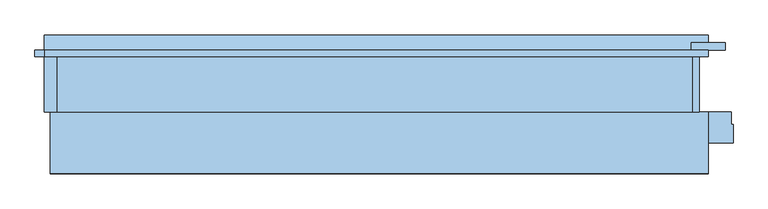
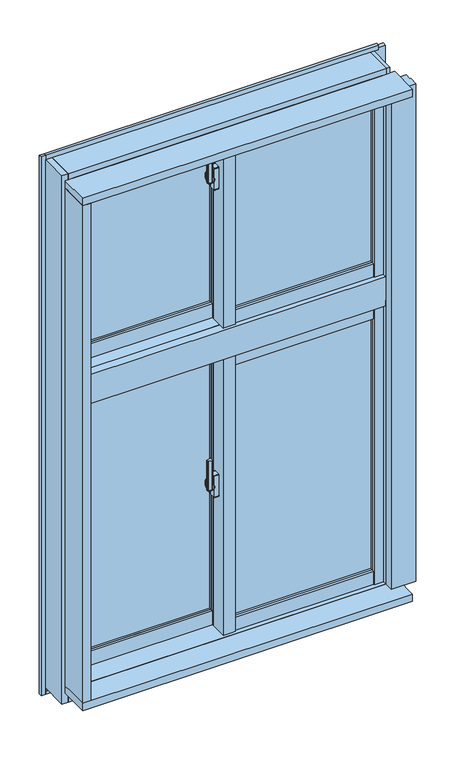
"""IFC4 building model written with IfcOpenShell, lengths in millimetres: window geometry, FNSⅡ100R_個別防火_ALC枠_段窓 : 引違/引違."""

import ifcopenshell
import ifcopenshell.guid

model = None  # the IFC model being written
_history = None  # IfcOwnerHistory: only IFC2X3 demands one
_inside = {}  # id of a spatial element -> (the spatial element, [elements in it])
_under = {}  # id of a project, library or spatial element -> (it, [spatial elements below it])
_declared = {}  # id of a project -> (the project, [libraries it declares])
_typed = {}  # id of a type object -> (the type object, [elements of that type])
_made_of = {}  # id of a material, layer set ... -> (it, [elements and type objects made of it])


def new_model(schema):
    """Start an empty IFC model of exactly this schema.

    Asked for "IFC4X3", IfcOpenShell would pick the latest addendum, in which some entities
    have other attributes; the version numbers below select the first issue.
    IFC2X3 requires an IfcOwnerHistory on every rooted entity: one is made here for all.
    """
    global model, _history
    if schema == "IFC4X3":
        model = ifcopenshell.file(schema_version=(4, 3, 0, 0))
    else:
        model = ifcopenshell.file(schema=schema)
    _inside.clear()
    _under.clear()
    _declared.clear()
    _typed.clear()
    _made_of.clear()
    _history = None
    if model.schema == "IFC2X3":
        org = make("IfcOrganization", Name="unknown")
        user = make(
            "IfcPersonAndOrganization",
            ThePerson=make("IfcPerson", FamilyName="unknown"),
            TheOrganization=org,
        )
        app = make(
            "IfcApplication",
            ApplicationDeveloper=org,
            Version="unknown",
            ApplicationFullName="unknown",
            ApplicationIdentifier="unknown",
        )
        _history = make(
            "IfcOwnerHistory",
            OwningUser=user,
            OwningApplication=app,
            ChangeAction="ADDED",
            CreationDate=0,
        )
    return model


def make(cls, **values):
    """One entity of the class cls with the attributes given. An attribute that is None is left unset."""
    return model.create_entity(
        cls, **{name: value for name, value in values.items() if value is not None}
    )


def rooted(cls, **values):
    """An entity with a GlobalId (a new one), such as an element, a storey or a relation."""
    return make(cls, GlobalId=ifcopenshell.guid.new(), OwnerHistory=_history, **values)


def si_unit(unit_type, name, prefix=None):
    """IfcSIUnit, for example si_unit("LENGTHUNIT", "METRE", prefix="MILLI")."""
    return make("IfcSIUnit", UnitType=unit_type, Prefix=prefix, Name=name)


def assignment(units):
    """IfcUnitAssignment: the units of a project."""
    return None if units is None else make("IfcUnitAssignment", Units=units)


def point(xyz):
    """IfcCartesianPoint."""
    return None if xyz is None else make("IfcCartesianPoint", Coordinates=xyz)


def direction(xyz):
    """IfcDirection."""
    return None if xyz is None else make("IfcDirection", DirectionRatios=xyz)


def frame(location, z_axis=None, x_axis=None):
    """IfcAxis2Placement3D, a coordinate frame: its origin and axes. An axis left out is left unset."""
    return make(
        "IfcAxis2Placement3D",
        Location=point(location),
        Axis=direction(z_axis),
        RefDirection=direction(x_axis),
    )


def frame_2d(location, x_axis=None):
    """IfcAxis2Placement2D, a coordinate frame in the plane: its origin and x axis."""
    return make(
        "IfcAxis2Placement2D", Location=point(location), RefDirection=direction(x_axis)
    )


def origin():
    """The frame at (0, 0, 0) with its axes left unset."""
    return frame((0.0, 0.0, 0.0))


def place(relative_to, where):
    """IfcLocalPlacement: puts the frame where relative to a parent placement (None: the world)."""
    return make(
        "IfcLocalPlacement", PlacementRelTo=relative_to, RelativePlacement=where
    )


def context(
    kind, dimensions, precision=None, world=None, true_north=None, identifier=None
):
    """IfcGeometricRepresentationContext, for example the 3D "Model" context."""
    return make(
        "IfcGeometricRepresentationContext",
        ContextIdentifier=identifier,
        ContextType=kind,
        CoordinateSpaceDimension=dimensions,
        Precision=precision,
        WorldCoordinateSystem=world,
        TrueNorth=true_north,
    )


def project(units=None, contexts=None):
    """IfcProject with its units and contexts."""
    return rooted(
        "IfcProject",
        Name="project",
        RepresentationContexts=contexts,
        UnitsInContext=assignment(units),
    )


def spatial(cls, under=None, at=None, **own):
    """A site, building, storey or space (cls), placed at a placement, below another one or the project."""
    s = rooted(cls, ObjectPlacement=at, **own)
    if under is not None:
        _under.setdefault(under.id(), (under, []))[1].append(s)
    return s


def polyline(points):
    """IfcPolyline through the points."""
    return make("IfcPolyline", Points=[point(p) for p in points])


def circle_curve(where, radius):
    """IfcCircle in the frame where."""
    return make("IfcCircle", Position=where, Radius=radius)


def trimmed(basis, trim1, trim2, sense, master):
    """IfcTrimmedCurve: the piece of a basis curve between two trims."""
    return make(
        "IfcTrimmedCurve",
        BasisCurve=basis,
        Trim1=trim1,
        Trim2=trim2,
        SenseAgreement=sense,
        MasterRepresentation=master,
    )


def segment(curve, same_sense, transition):
    """IfcCompositeCurveSegment."""
    return make(
        "IfcCompositeCurveSegment",
        Transition=transition,
        SameSense=same_sense,
        ParentCurve=curve,
    )


def composite_curve(segments, self_intersect=None):
    """IfcCompositeCurve: segments joined end to end."""
    return make("IfcCompositeCurve", Segments=segments, SelfIntersect=self_intersect)


def outline(outer, holes=None, kind="AREA"):
    """IfcArbitraryClosedProfileDef: a profile drawn as a closed curve; with holes, ...WithVoids."""
    if holes is None:
        return make("IfcArbitraryClosedProfileDef", ProfileType=kind, OuterCurve=outer)
    return make(
        "IfcArbitraryProfileDefWithVoids",
        ProfileType=kind,
        OuterCurve=outer,
        InnerCurves=holes,
    )


def extrude(swept, where, along, depth):
    """IfcExtrudedAreaSolid: the profile swept, set in the frame where, extruded along a direction by depth."""
    return make(
        "IfcExtrudedAreaSolid",
        SweptArea=swept,
        Position=where,
        ExtrudedDirection=direction(along),
        Depth=depth,
    )


def faces_of(points, faces, orient=None, outer=None):
    """IfcFace entities. A face is a list of loops; a loop is a list of indices into points, from 0.

    orient and outer hold one flag for each loop. By default every Orientation is true, the
    first loop of a face is its IfcFaceOuterBound and the others are IfcFaceBound.
    """
    made = []
    for i, loops in enumerate(faces):
        bounds = []
        for j, loop in enumerate(loops):
            is_outer = j == 0 if outer is None else outer[i][j]
            bounds.append(
                make(
                    "IfcFaceOuterBound" if is_outer else "IfcFaceBound",
                    Bound=make("IfcPolyLoop", Polygon=[points[k] for k in loop]),
                    Orientation=True if orient is None else orient[i][j],
                )
            )
        made.append(make("IfcFace", Bounds=bounds))
    return made


def faceted_brep(points, faces, orient=None, outer=None, voids=None):
    """IfcFacetedBrep: a solid bounded by flat faces; with voids (closed shells), ...WithVoids."""
    shared = [point(p) for p in points]
    hull = make("IfcClosedShell", CfsFaces=faces_of(shared, faces, orient, outer))
    if voids is None:
        return make("IfcFacetedBrep", Outer=hull)
    return make(
        "IfcFacetedBrepWithVoids",
        Outer=hull,
        Voids=[
            make(cls, CfsFaces=faces_of(shared, fs, o, b)) for cls, fs, o, b in voids
        ],
    )


def shape(context_of_items, identifier, shape_type, items):
    """IfcShapeRepresentation: the items that make up one representation, for example the "Body"."""
    return make(
        "IfcShapeRepresentation",
        ContextOfItems=context_of_items,
        RepresentationIdentifier=identifier,
        RepresentationType=shape_type,
        Items=items,
    )


def source(mapping_origin, context_of_items, identifier, shape_type, items):
    """IfcRepresentationMap: a shape defined once, which mapped items show again and again."""
    return make(
        "IfcRepresentationMap",
        MappingOrigin=mapping_origin,
        MappedRepresentation=shape(context_of_items, identifier, shape_type, items),
    )


def transform(
    local_origin,
    x_axis=None,
    y_axis=None,
    z_axis=None,
    scale=None,
    scale2=None,
    scale3=None,
    uniform=True,
):
    """IfcCartesianTransformationOperator3D, or its non-uniform kind. x_axis, y_axis, z_axis: its Axis1, 2, 3."""
    if uniform:
        return make(
            "IfcCartesianTransformationOperator3D",
            Axis1=direction(x_axis),
            Axis2=direction(y_axis),
            LocalOrigin=point(local_origin),
            Scale=scale,
            Axis3=direction(z_axis),
        )
    return make(
        "IfcCartesianTransformationOperator3DnonUniform",
        Axis1=direction(x_axis),
        Axis2=direction(y_axis),
        LocalOrigin=point(local_origin),
        Scale=scale,
        Axis3=direction(z_axis),
        Scale2=scale2,
        Scale3=scale3,
    )


def mapped(mapping_source, mapping_target):
    """IfcMappedItem: shows the shape of a source again, moved by a transform."""
    return make(
        "IfcMappedItem", MappingSource=mapping_source, MappingTarget=mapping_target
    )


def made_of(thing, what):
    """Note that an element or type object is made of a material, layer set ...; save() writes the relation."""
    if what is not None:
        _made_of.setdefault(what.id(), (what, []))[1].append(thing)
    return thing


def element(
    cls,
    number,
    at=None,
    inside=None,
    cuts=None,
    type_object=None,
    material=None,
    context=None,
    identifier="Body",
    shape_type=None,
    held_by="IfcProductDefinitionShape",
    body=None,
    shapes=None,
    **own,
):
    """One element of the class cls, such as IfcWall. Its Tag is "e" and its number.

    at: its placement. inside: the storey or other place that contains it. cuts: it is an
    opening in that element (IfcRelVoidsElement). A single representation is given by context,
    identifier, shape_type and body (its items); several are given by shapes. held_by: the class
    of the entity that holds the representations. save() writes the other relations.
    """
    e = rooted(cls, Tag="e%d" % number, ObjectPlacement=at, **own)
    if body is not None:
        shapes = [shape(context, identifier, shape_type, body)]
    if shapes is not None:
        e.Representation = make(held_by, Representations=shapes)
    if inside is not None:
        _inside.setdefault(inside.id(), (inside, []))[1].append(e)
    if cuts is not None:
        rooted(
            "IfcRelVoidsElement", RelatingBuildingElement=cuts, RelatedOpeningElement=e
        )
    if type_object is not None:
        _typed.setdefault(type_object.id(), (type_object, []))[1].append(e)
    return made_of(e, material)


def aggregate(whole, parts):
    """IfcRelAggregates: a whole, such as a stair, and the parts it consists of."""
    return rooted("IfcRelAggregates", RelatingObject=whole, RelatedObjects=parts)


def save(model, path):
    """Write the relations noted so far, then the file.

    IfcRelAggregates (storeys below a building ...), IfcRelContainedInSpatialStructure (elements
    in a storey), IfcRelDefinesByType, IfcRelAssociatesMaterial and IfcRelDeclares: one each for
    every whole, place, type object, material and project.
    """
    for whole, parts in _under.values():
        aggregate(whole, parts)
    for where, things in _inside.values():
        rooted(
            "IfcRelContainedInSpatialStructure",
            RelatedElements=things,
            RelatingStructure=where,
        )
    for kind, things in _typed.values():
        rooted("IfcRelDefinesByType", RelatedObjects=things, RelatingType=kind)
    for what, things in _made_of.values():
        rooted("IfcRelAssociatesMaterial", RelatedObjects=things, RelatingMaterial=what)
    for by, libraries in _declared.values():
        rooted("IfcRelDeclares", RelatingContext=by, RelatedDefinitions=libraries)
    model.write(path)


def plane_surface(at):
    """IfcPlane: the flat surface through the origin of the frame at, square to its z axis."""
    return make("IfcPlane", Position=at)


def cylinder_surface(at, radius):
    """IfcCylindricalSurface: all points at the distance radius from the z axis of the frame at."""
    return make("IfcCylindricalSurface", Position=at, Radius=radius)


def revolved_surface(curve, axis_point, axis_direction):
    """IfcSurfaceOfRevolution: the curve turned about the line through axis_point along axis_direction."""
    return make(
        "IfcSurfaceOfRevolution",
        SweptCurve=make("IfcArbitraryOpenProfileDef", ProfileType="CURVE", Curve=curve),
        AxisPosition=make("IfcAxis1Placement", Location=point(axis_point), Axis=direction(axis_direction)),
    )


def advanced_brep(points, edges, surfaces, faces):
    """IfcAdvancedBrep: a solid bounded by faces that lie on surfaces and meet in shared edges.

    An edge is (start, end): straight between two places in points (the first is 0);
    or (start, end, curve); or (start, end, curve, False) where it runs against its curve.
    A face is (place in surfaces, loops), or (place, loops, False) where it looks against
    its surface's normal. A loop lists edges by number (the first is 1), with a minus sign
    where the edge is run from its end to its start. The first loop is the outer one.
    """
    corners = [point(p) for p in points]
    vertices = [make("IfcVertexPoint", VertexGeometry=c) for c in corners]
    made = []
    for start, end, *more in edges:
        made.append(
            make(
                "IfcEdgeCurve",
                EdgeStart=vertices[start],
                EdgeEnd=vertices[end],
                EdgeGeometry=more[0] if more else make("IfcPolyline", Points=[corners[start], corners[end]]),
                SameSense=more[1] if len(more) > 1 else True,
            )
        )
    hull = []
    for where, loops, *sense in faces:
        bounds = []
        for j, loop in enumerate(loops):
            ring = [make("IfcOrientedEdge", EdgeElement=made[abs(k) - 1], Orientation=k > 0) for k in loop]
            bounds.append(
                make(
                    "IfcFaceOuterBound" if j == 0 else "IfcFaceBound",
                    Bound=make("IfcEdgeLoop", EdgeList=ring),
                    Orientation=True,
                )
            )
        hull.append(make("IfcAdvancedFace", Bounds=bounds, FaceSurface=surfaces[where], SameSense=sense[0] if sense else True))
    return make("IfcAdvancedBrep", Outer=make("IfcClosedShell", CfsFaces=hull))


def window_97257845(model_context):
    return source(origin(), model_context, "Body", "SolidModel", [
        extrude(outline(composite_curve([segment(polyline([(-39.0, 14.6), (-39.0, 6.4)]), True, "CONTINUOUS"), segment(trimmed(circle_curve(frame_2d((-41.0, 6.4)), 2.0), [point((-39.0, 6.4))], [point((-41.3606557, 4.4327869))], False, "CARTESIAN"), True, "CONTINUOUS"), segment(polyline([(-41.3606557, 4.4327869), (-52.3606557, 6.4494536)]), True, "CONTINUOUS"), segment(trimmed(circle_curve(frame_2d((-52.0, 8.4166667)), 2.0), [point((-52.3606557, 6.4494536))], [point((-54.0, 8.4166667))], False, "CARTESIAN"), True, "CONTINUOUS"), segment(polyline([(-54.0, 8.4166667), (-54.0, 12.5833333)]), True, "CONTINUOUS"), segment(trimmed(circle_curve(frame_2d((-52.0, 12.5833333)), 2.0), [point((-54.0, 12.5833333))], [point((-52.3606557, 14.5505464))], False, "CARTESIAN"), True, "CONTINUOUS"), segment(polyline([(-52.3606557, 14.5505464), (-41.3606557, 16.5672131)]), True, "CONTINUOUS"), segment(trimmed(circle_curve(frame_2d((-41.0, 14.6)), 2.0), [point((-41.3606557, 16.5672131))], [point((-39.0, 14.6))], False, "CARTESIAN"), True, "CONTINUOUS")], self_intersect=False)), frame((0.0, 0.0, 2440.0), z_axis=(0.0, 0.0, 1.0), x_axis=(1.0, 0.0, 0.0)), (0.0, 0.0, 1.0), 100.0),
        advanced_brep(
        [(-37.5, 18.8234285, 2471.7333311), (-45.5, 18.8234285, 2471.7333311), (-45.5, 18.4351999, 2470.2844424), (-39.0, 18.4351999, 2470.2844424), (-39.0, 16.6234666, 2463.5229616), (-37.5, 16.6234666, 2463.5229616), (-39.0, 16.6466117, 2429.3190372), (-45.5, 16.6466117, 2429.3190372), (-45.5, 16.907084, 2427.8418256), (-37.5, 16.907084, 2427.8418256), (-37.5, 15.4310745, 2436.2126915), (-39.0, 15.4310745, 2436.2126915)],
        [
            (0, 1),
            (1, 2),
            (2, 3),
            (3, 4),
            (4, 5),
            (5, 0),
            (6, 7),
            (7, 8),
            (8, 9),
            (9, 10),
            (10, 11),
            (11, 6),
            (0, 9, circle_curve(frame((-37.5, 13.0, 2450.0), z_axis=(-1.0, 0.0, 0.0), x_axis=(0.0, 0.25881904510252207, 0.965925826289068)), 22.5)),
            (8, 1, circle_curve(frame((-45.5, 13.0, 2450.0), z_axis=(1.0, 0.0, 0.0), x_axis=(0.0, 0.25881904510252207, 0.965925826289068)), 22.5)),
            (7, 2, circle_curve(frame((-45.5, 13.0, 2450.0), z_axis=(1.0, 0.0, 0.0), x_axis=(0.0, 0.25881904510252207, 0.965925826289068)), 21.0)),
            (6, 3, circle_curve(frame((-39.0, 13.0, 2450.0), z_axis=(1.0, 0.0, 0.0), x_axis=(0.0, 0.25881904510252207, 0.965925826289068)), 21.0)),
            (11, 4, circle_curve(frame((-39.0, 13.0, 2450.0), z_axis=(-1.0, 0.0, 0.0), x_axis=(0.0, -1.0, 0.0)), 14.0)),
            (5, 10, circle_curve(frame((-37.5, 13.0, 2450.0), z_axis=(1.0, 0.0, 0.0), x_axis=(0.0, -1.0, 0.0)), 14.0)),
        ],
        [
            plane_surface(frame((-43.5470497, 13.0, 2450.0), z_axis=(0.0, -0.965925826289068, 0.25881904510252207), x_axis=(0.0, 0.25881904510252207, 0.965925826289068))),
            plane_surface(frame((-43.5470497, 13.0, 2450.0), z_axis=(0.0, -0.9848077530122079, -0.17364817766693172), x_axis=(0.0, 0.17364817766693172, -0.9848077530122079))),
            cylinder_surface(frame((-43.5470497, 13.0, 2450.0), z_axis=(-1.0, 0.0, 0.0), x_axis=(0.0, 0.25881904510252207, 0.965925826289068)), 22.5),
            plane_surface(frame((-45.5, 13.0, 2450.0), z_axis=(-1.0, 0.0, 0.0), x_axis=(0.0, 0.25881904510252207, 0.965925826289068))),
            revolved_surface(polyline([(-45.5, 18.435199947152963, 2470.2844423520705), (-39.0, 18.435199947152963, 2470.2844423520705)]), (-43.5470497, 13.0, 2450.0), (-1.0, 0.0, 0.0)),
            plane_surface(frame((-39.0, 13.0, 2450.0), z_axis=(-1.0, 0.0, 0.0), x_axis=(0.0, 0.25881904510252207, 0.965925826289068))),
            plane_surface(frame((-37.5, 13.0, 2450.0), z_axis=(1.0, 0.0, 0.0), x_axis=(0.0, 0.25881904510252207, 0.965925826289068))),
            cylinder_surface(frame((-37.5, 13.0, 2450.0), z_axis=(-1.0, 0.0, 0.0), x_axis=(0.0, -1.0, 0.0)), 14.0),
        ],
        [
            (0, [[1, 2, 3, 4, 5, 6]]),
            (1, [[7, 8, 9, 10, 11, 12]]),
            (2, [[-1, 13, -9, 14]]),
            (3, [[-2, -14, -8, 15]]),
            (4, [[-3, -15, -7, 16]]),
            (5, [[-16, -12, 17, -4]]),
            (6, [[-13, -6, 18, -10]]),
            (7, [[-17, -11, -18, -5]]),
        ],
    ),
        extrude(outline(composite_curve([segment(trimmed(circle_curve(frame_2d((13.0, 2450.0)), 11.5), [point((24.5, 2450.0))], [point((1.5, 2450.0))], False, "CARTESIAN"), True, "CONTINUOUS"), segment(trimmed(circle_curve(frame_2d((13.0, 2450.0)), 11.5), [point((1.5, 2450.0))], [point((24.5, 2450.0))], False, "CARTESIAN"), True, "CONTINUOUS")], self_intersect=False)), frame((-37.5, 0.0, 0.0), z_axis=(1.0, 0.0, 0.0), x_axis=(0.0, 1.0, 0.0)), (0.0, 0.0, 1.0), 2.5),
        extrude(outline(composite_curve([segment(polyline([(4.0, 2487.5), (22.0, 2487.5)]), True, "CONTINUOUS"), segment(trimmed(circle_curve(frame_2d((22.0, 2485.5)), 2.0), [point((22.0, 2487.5))], [point((24.0, 2485.5))], False, "CARTESIAN"), True, "CONTINUOUS"), segment(polyline([(24.0, 2485.5), (24.0, 2414.5)]), True, "CONTINUOUS"), segment(trimmed(circle_curve(frame_2d((22.0, 2414.5)), 2.0), [point((24.0, 2414.5))], [point((22.0, 2412.5))], False, "CARTESIAN"), True, "CONTINUOUS"), segment(polyline([(22.0, 2412.5), (4.0, 2412.5)]), True, "CONTINUOUS"), segment(trimmed(circle_curve(frame_2d((4.0, 2414.5)), 2.0), [point((4.0, 2412.5))], [point((2.0, 2414.5))], False, "CARTESIAN"), True, "CONTINUOUS"), segment(polyline([(2.0, 2414.5), (2.0, 2485.5)]), True, "CONTINUOUS"), segment(trimmed(circle_curve(frame_2d((4.0, 2485.5)), 2.0), [point((2.0, 2485.5))], [point((4.0, 2487.5))], False, "CARTESIAN"), True, "CONTINUOUS")], self_intersect=False)), frame((-35.0, 0.0, 0.0), z_axis=(1.0, 0.0, 0.0), x_axis=(0.0, 1.0, 0.0)), (0.0, 0.0, 1.0), 15.0),
        extrude(outline(polyline([(20.0, 4.0), (468.0, 4.0), (468.0, -2.0), (20.0, -2.0), (20.0, 4.0)])), frame((0.0, 0.0, 1998.0), z_axis=(0.0, 0.0, 1.0), x_axis=(1.0, 0.0, 0.0)), (0.0, 0.0, 1.0), 562.0),
        extrude(outline(polyline([(20.0, 22.0), (468.0, 22.0), (468.0, 16.0), (20.0, 16.0), (20.0, 22.0)])), frame((0.0, 0.0, 1998.0), z_axis=(0.0, 0.0, 1.0), x_axis=(1.0, 0.0, 0.0)), (0.0, 0.0, 1.0), 562.0),
        extrude(outline(polyline([(-468.0, 62.0), (-20.0, 62.0), (-20.0, 56.0), (-468.0, 56.0), (-468.0, 62.0)])), frame((0.0, 0.0, 1998.0), z_axis=(0.0, 0.0, 1.0), x_axis=(1.0, 0.0, 0.0)), (0.0, 0.0, 1.0), 562.0),
        extrude(outline(polyline([(-468.0, 80.0), (-20.0, 80.0), (-20.0, 74.0), (-468.0, 74.0), (-468.0, 80.0)])), frame((0.0, 0.0, 1998.0), z_axis=(0.0, 0.0, 1.0), x_axis=(1.0, 0.0, 0.0)), (0.0, 0.0, 1.0), 562.0),
        faceted_brep([(-500.0, 59.0, 2600.0), (-489.5, 59.0, 2600.0), (-489.5, 46.0, 2600.0), (-468.0, 46.0, 2600.0), (-468.0, 88.0, 2600.0), (-500.0, 88.0, 2600.0), (-468.0, 59.0, 1910.0), (-500.0, 59.0, 1910.0), (-500.0, 88.0, 1910.0), (-468.0, 88.0, 1910.0), (-468.0, 59.0, 1950.0), (-489.5, 59.0, 1950.0), (-489.5, 46.0, 1950.0), (-468.0, 46.0, 1950.0)], [[[0, 1, 2, 3, 4, 5]], [[6, 7, 8, 9]], [[1, 0, 7, 6, 10, 11]], [[2, 1, 11, 12]], [[3, 2, 12, 13]], [[4, 3, 13, 10, 6, 9]], [[5, 4, 9, 8]], [[7, 0, 5, 8]], [[11, 10, 13, 12]]]),
        faceted_brep([(-20.0, 45.5, 2600.0), (-1.8, 45.5, 2600.0), (-1.8, 33.1, 2600.0), (20.0, 33.1, 2600.0), (20.0, 88.0, 2600.0), (-20.0, 88.0, 2600.0), (-20.0, 88.0, 1910.0), (20.0, 88.0, 1910.0), (20.0, 59.0, 1910.0), (-20.0, 59.0, 1910.0), (-20.0, 45.5, 1950.0), (-1.8, 45.5, 1950.0), (-1.8, 33.1, 1950.0), (20.0, 33.1, 1950.0), (20.0, 59.0, 1950.0), (-20.0, 59.0, 1950.0)], [[[0, 1, 2, 3, 4, 5]], [[6, 7, 8, 9]], [[1, 0, 10, 11]], [[2, 1, 11, 12]], [[3, 2, 12, 13]], [[4, 3, 13, 14, 8, 7]], [[5, 4, 7, 6]], [[0, 5, 6, 9, 15, 10]], [[14, 15, 9, 8]], [[15, 14, 13, 12, 11, 10]]]),
        extrude(outline(polyline([(-20.0, 33.1), (-15.0, 33.1), (-15.0, -12.0), (15.0, -12.0), (15.0, -8.0), (20.0, -8.0), (20.0, -20.0), (-20.0, -20.0), (-20.0, 33.1)])), frame((0.0, 0.0, 1950.0), z_axis=(0.0, 0.0, 1.0), x_axis=(1.0, 0.0, 0.0)), (0.0, 0.0, 1.0), 650.0),
        extrude(outline(polyline([(-15.0, 33.1), (20.0, 33.1), (20.0, -8.0), (15.0, -8.0), (15.0, -12.0), (-15.0, -12.0), (-15.0, 33.1)])), frame((0.0, 0.0, 1950.0), z_axis=(0.0, 0.0, 1.0), x_axis=(1.0, 0.0, 0.0)), (0.0, 0.0, 1.0), 650.0),
        extrude(outline(polyline([(468.0, -20.0), (468.0, -12.0), (489.5, -12.0), (489.5, 1.0), (497.0, 1.0), (497.0, -20.0), (468.0, -20.0)])), frame((0.0, 0.0, 1953.0), z_axis=(0.0, 0.0, 1.0), x_axis=(1.0, 0.0, 0.0)), (0.0, 0.0, 1.0), 647.0),
        extrude(outline(polyline([(468.0, 30.0), (500.0, 30.0), (500.0, 1.0), (489.5, 1.0), (489.5, -12.0), (468.0, -12.0), (468.0, 30.0)])), frame((0.0, 0.0, 1950.0), z_axis=(0.0, 0.0, 1.0), x_axis=(1.0, 0.0, 0.0)), (0.0, 0.0, 1.0), 650.0),
        extrude(outline(polyline([(-1.85, 45.5), (-1.85, 38.0), (-20.0, 38.0), (-20.0, 45.5), (-1.85, 45.5)])), frame((0.0, 0.0, 1950.0), z_axis=(0.0, 0.0, 1.0), x_axis=(1.0, 0.0, 0.0)), (0.0, 0.0, 1.0), 650.0),
        extrude(outline(polyline([(-497.0, 59.0), (-489.5, 59.0), (-489.5, 46.0), (-468.0, 46.0), (-468.0, 38.0), (-497.0, 38.0), (-497.0, 59.0)])), frame((0.0, 0.0, 1950.0), z_axis=(0.0, 0.0, 1.0), x_axis=(1.0, 0.0, 0.0)), (0.0, 0.0, 1.0), 650.0),
        extrude(outline(polyline([(-18.0, 1953.0), (-18.0, 1998.0), (-10.0, 1998.0), (-10.0, 1975.5), (1.0, 1975.5), (1.0, 1953.0), (-18.0, 1953.0)])), frame((20.0, 0.0, 0.0), z_axis=(1.0, 0.0, 0.0), x_axis=(0.0, 1.0, 0.0)), (0.0, 0.0, 1.0), 448.0),
        extrude(outline(polyline([(30.0, 1950.0), (1.0, 1950.0), (1.0, 1975.5), (-10.0, 1975.5), (-10.0, 1998.0), (30.0, 1998.0), (30.0, 1950.0)])), frame((20.0, 0.0, 0.0), z_axis=(1.0, 0.0, 0.0), x_axis=(0.0, 1.0, 0.0)), (0.0, 0.0, 1.0), 448.0),
        extrude(outline(polyline([(40.0, 1998.0), (48.0, 1998.0), (48.0, 1975.5), (59.0, 1975.5), (59.0, 1950.0), (40.0, 1950.0), (40.0, 1998.0)])), frame((-468.0, 0.0, 0.0), z_axis=(1.0, 0.0, 0.0), x_axis=(0.0, 1.0, 0.0)), (0.0, 0.0, 1.0), 448.0),
        extrude(outline(polyline([(88.0, 1910.0), (59.0, 1910.0), (59.0, 1975.5), (48.0, 1975.5), (48.0, 1998.0), (88.0, 1998.0), (88.0, 1910.0)])), frame((-468.0, 0.0, 0.0), z_axis=(1.0, 0.0, 0.0), x_axis=(0.0, 1.0, 0.0)), (0.0, 0.0, 1.0), 448.0),
        extrude(outline(polyline([(3.0, 2580.5), (-10.0, 2580.5), (-10.0, 2560.0), (-18.0, 2560.0), (-18.0, 2600.0), (3.0, 2600.0), (3.0, 2580.5)])), frame((20.0, 0.0, 0.0), z_axis=(1.0, 0.0, 0.0), x_axis=(0.0, 1.0, 0.0)), (0.0, 0.0, 1.0), 448.0),
        extrude(outline(polyline([(30.0, 2600.0), (30.0, 2560.0), (-10.0, 2560.0), (-10.0, 2580.5), (3.0, 2580.5), (3.0, 2600.0), (30.0, 2600.0)])), frame((20.0, 0.0, 0.0), z_axis=(1.0, 0.0, 0.0), x_axis=(0.0, 1.0, 0.0)), (0.0, 0.0, 1.0), 448.0),
        extrude(outline(polyline([(61.0, 2580.5), (48.0, 2580.5), (48.0, 2560.0), (40.0, 2560.0), (40.0, 2600.0), (61.0, 2600.0), (61.0, 2580.5)])), frame((-468.0, 0.0, 0.0), z_axis=(1.0, 0.0, 0.0), x_axis=(0.0, 1.0, 0.0)), (0.0, 0.0, 1.0), 448.0),
        extrude(outline(polyline([(88.0, 2600.0), (88.0, 2560.0), (48.0, 2560.0), (48.0, 2580.5), (61.0, 2580.5), (61.0, 2600.0), (88.0, 2600.0)])), frame((-468.0, 0.0, 0.0), z_axis=(1.0, 0.0, 0.0), x_axis=(0.0, 1.0, 0.0)), (0.0, 0.0, 1.0), 448.0),
        faceted_brep([(500.0, -30.0, 900.0), (500.0, -5.5, 900.0), (515.0, -5.5, 900.0), (515.0, -10.0, 900.0), (503.0, -10.0, 900.0), (503.0, -30.0, 900.0), (500.0, -30.0, 1870.0), (500.0, -5.5, 1870.0), (515.0, -5.5, 1870.0), (515.0, -10.0, 1870.0), (503.0, -10.0, 1870.0), (503.0, -30.0, 1870.0)], [[[0, 1, 2, 3, 4, 5]], [[1, 0, 6, 7]], [[2, 1, 7, 8]], [[3, 2, 8, 9]], [[4, 3, 9, 10]], [[5, 4, 10, 11]], [[0, 5, 11, 6]], [[6, 11, 10, 9, 8, 7]]]),
        faceted_brep([(500.0, -10.0, 2620.0), (500.0, -5.5, 2620.0), (500.0, -5.5, 1950.0), (500.0, -30.0, 1950.0), (500.0, -30.0, 2603.0), (500.0, -10.0, 2603.0), (515.0, -5.5, 2620.0), (515.0, -5.5, 1950.0), (515.0, -10.0, 2620.0), (515.0, -10.0, 1950.0), (503.0, -10.0, 2603.0), (503.0, -10.0, 1950.0), (503.0, -30.0, 2603.0), (503.0, -30.0, 1950.0)], [[[0, 1, 2, 3, 4, 5]], [[1, 6, 7, 2]], [[6, 8, 9, 7]], [[5, 10, 11, 9, 8, 0]], [[10, 12, 13, 11]], [[12, 4, 3, 13]], [[8, 6, 1, 0]], [[10, 5, 4, 12]], [[13, 3, 2, 7, 9, 11]]]),
        faceted_brep([(515.0, 90.0, 840.0), (515.0, 90.0, 849.0), (515.0, 56.0, 849.0), (515.0, 56.0, 884.0), (515.0, -10.0, 884.0), (515.0, -10.0, 840.0), (-515.0, 90.0, 840.0), (-515.0, 90.0, 849.0), (-515.0, 56.0, 849.0), (-515.0, 56.0, 884.0), (-515.0, -10.0, 884.0), (500.0, 17.25, 884.0), (500.0, -1.2, 884.0), (-15.0, -1.2, 884.0), (-15.0, 17.25, 884.0), (-515.0, -10.0, 840.0), (500.0, -1.2, 900.0), (500.0, 17.25, 900.0), (-15.0, -1.2, 900.0), (-15.0, 17.25, 900.0)], [[[0, 1, 2, 3, 4, 5]], [[1, 0, 6, 7]], [[2, 1, 7, 8]], [[3, 2, 8, 9]], [[4, 3, 9, 10], [11, 12, 13, 14]], [[5, 4, 10, 15]], [[0, 5, 15, 6]], [[6, 15, 10, 9, 8, 7]], [[16, 12, 11, 17]], [[12, 16, 18, 13]], [[18, 19, 14, 13]], [[17, 11, 14, 19]], [[16, 17, 19, 18]]]),
        faceted_brep([(500.0, -1.2, 1950.0), (500.0, -1.2, 1934.0), (500.0, 17.25, 1934.0), (500.0, 17.25, 1950.0), (-15.0, -1.2, 1950.0), (-15.0, 17.25, 1950.0), (-15.0, 17.25, 1934.0), (-15.0, -1.2, 1934.0)], [[[0, 1, 2, 3]], [[4, 5, 6, 7]], [[1, 0, 4, 7]], [[2, 1, 7, 6]], [[3, 2, 6, 5]], [[0, 3, 5, 4]]]),
        faceted_brep([(-515.0, -10.0, 900.0), (-515.0, 56.0, 900.0), (-500.0, 56.0, 900.0), (-500.0, -30.0, 900.0), (-503.0, -30.0, 900.0), (-503.0, -10.0, 900.0), (-515.0, -10.0, 1870.0), (-515.0, 56.0, 1870.0), (-500.0, 56.0, 1870.0), (-500.0, -30.0, 1870.0), (-503.0, -30.0, 1870.0), (-503.0, -10.0, 1870.0)], [[[0, 1, 2, 3, 4, 5]], [[1, 0, 6, 7]], [[2, 1, 7, 8]], [[3, 2, 8, 9]], [[4, 3, 9, 10]], [[5, 4, 10, 11]], [[0, 5, 11, 6]], [[6, 11, 10, 9, 8, 7]]]),
        faceted_brep([(-515.0, -10.0, 2620.0), (-515.0, 56.0, 2620.0), (-515.0, 56.0, 1950.0), (-515.0, -10.0, 1950.0), (-500.0, 56.0, 2620.0), (-500.0, 56.0, 1950.0), (-500.0, -10.0, 2620.0), (-500.0, -10.0, 2603.0), (-500.0, -30.0, 2603.0), (-500.0, -30.0, 1950.0), (-503.0, -30.0, 2603.0), (-503.0, -30.0, 1950.0), (-503.0, -10.0, 2603.0), (-503.0, -10.0, 1950.0)], [[[0, 1, 2, 3]], [[1, 4, 5, 2]], [[4, 6, 7, 8, 9, 5]], [[8, 10, 11, 9]], [[10, 12, 13, 11]], [[12, 7, 6, 0, 3, 13]], [[4, 1, 0, 6]], [[7, 12, 10, 8]], [[13, 3, 2, 5, 9, 11]]]),
        faceted_brep([(-535.0, 90.0, 840.0), (-515.0, 90.0, 840.0), (-515.0, -10.0, 840.0), (-535.0, -10.0, 840.0), (-535.0, 90.0, 2645.0), (-515.0, 90.0, 2645.0), (-515.0, 90.0, 2600.0), (-500.0, 90.0, 2600.0), (-500.0, 90.0, 1899.0), (-515.0, 90.0, 1899.0), (-515.0, 90.0, 1850.0), (-500.0, 90.0, 1850.0), (-500.0, 90.0, 849.0), (-515.0, 90.0, 849.0), (-515.0, -10.0, 2645.0), (-515.0, 56.0, 849.0), (-515.0, 56.0, 1850.0), (-515.0, 56.0, 1899.0), (-515.0, 56.0, 2600.0), (-535.0, -10.0, 2645.0), (-500.0, 56.0, 849.0), (-500.0, 56.0, 1850.0), (-500.0, 56.0, 2600.0), (-500.0, 56.0, 1899.0)], [[[0, 1, 2, 3]], [[4, 5, 6, 7, 8, 9, 10, 11, 12, 13, 1, 0]], [[5, 14, 2, 1, 13, 15, 16, 10, 9, 17, 18, 6]], [[14, 19, 3, 2]], [[19, 4, 0, 3]], [[12, 20, 15, 13]], [[21, 16, 15, 20]], [[11, 21, 20, 12]], [[4, 19, 14, 5]], [[11, 10, 16, 21]], [[7, 6, 18, 22]], [[8, 23, 17, 9]], [[22, 18, 17, 23]], [[7, 22, 23, 8]]]),
        faceted_brep([(515.0, -10.0, 840.0), (515.0, 90.0, 840.0), (525.0, 90.0, 840.0), (525.0, -10.0, 840.0), (515.0, -10.0, 2645.0), (515.0, 90.0, 2645.0), (515.0, 90.0, 2600.0), (515.0, -5.5, 2600.0), (515.0, -5.5, 1899.0), (515.0, 90.0, 1899.0), (515.0, 90.0, 1850.0), (515.0, -5.5, 1850.0), (515.0, -5.5, 849.0), (515.0, 90.0, 849.0), (525.0, 90.0, 2645.0), (500.0, 90.0, 849.0), (500.0, 90.0, 1850.0), (500.0, 90.0, 1899.0), (500.0, 90.0, 2600.0), (525.0, -10.0, 2645.0), (500.0, -5.5, 849.0), (500.0, -5.5, 1850.0), (500.0, -5.5, 2600.0), (500.0, -5.5, 1899.0)], [[[0, 1, 2, 3]], [[4, 5, 6, 7, 8, 9, 10, 11, 12, 13, 1, 0]], [[5, 14, 2, 1, 13, 15, 16, 10, 9, 17, 18, 6]], [[14, 19, 3, 2]], [[19, 4, 0, 3]], [[20, 15, 13, 12]], [[21, 16, 15, 20]], [[11, 21, 20, 12]], [[4, 19, 14, 5]], [[21, 11, 10, 16]], [[22, 7, 6, 18]], [[23, 17, 9, 8]], [[7, 22, 23, 8]], [[22, 18, 17, 23]]]),
        faceted_brep([(503.0, -30.0, 900.0), (503.0, -30.0, 897.0), (503.0, -10.0, 897.0), (503.0, -10.0, 884.0), (503.0, -5.5, 884.0), (503.0, -5.5, 900.0), (-503.0, -10.0, 884.0), (-503.0, -10.0, 897.0), (-503.0, -30.0, 897.0), (-503.0, -30.0, 900.0), (-503.0, -1.2, 900.0), (-503.0, -1.2, 884.0), (500.0, -5.5, 900.0), (500.0, -1.2, 900.0), (-15.0, -1.2, 900.0), (-15.0, 56.0, 900.0), (-500.0, 56.0, 900.0), (-500.0, -1.2, 900.0), (-500.0, -1.2, 884.0), (500.0, -1.2, 884.0), (-15.0, -1.2, 884.0), (-500.0, 56.0, 884.0), (-15.0, 56.0, 884.0), (500.0, -5.5, 884.0)], [[[0, 1, 2, 3, 4, 5]], [[6, 7, 8, 9, 10, 11]], [[3, 2, 7, 6]], [[2, 1, 8, 7]], [[1, 0, 9, 8]], [[10, 9, 0, 5, 12, 13, 14, 15, 16, 17]], [[11, 10, 17, 18]], [[13, 19, 20, 14]], [[6, 11, 18, 21, 22, 20, 19, 23, 4, 3]], [[12, 23, 19, 13]], [[23, 12, 5, 4]], [[15, 14, 20, 22]], [[16, 21, 18, 17]], [[15, 22, 21, 16]]]),
        faceted_brep([(500.0, 11.9, 2600.0), (500.0, 11.9, 2625.0), (500.0, -10.0, 2625.0), (500.0, -10.0, 2603.0), (500.0, -30.0, 2603.0), (500.0, -30.0, 2600.0), (-500.0, 11.9, 2600.0), (-500.0, -30.0, 2600.0), (-500.0, -30.0, 2603.0), (-500.0, -10.0, 2603.0), (-500.0, -10.0, 2625.0), (-500.0, 11.9, 2625.0)], [[[0, 1, 2, 3, 4, 5]], [[6, 7, 8, 9, 10, 11]], [[1, 0, 6, 11]], [[2, 1, 11, 10]], [[3, 2, 10, 9]], [[4, 3, 9, 8]], [[5, 4, 8, 7]], [[0, 5, 7, 6]]]),
        faceted_brep([(500.0, 11.9, 1875.0), (500.0, -10.0, 1875.0), (500.0, -10.0, 1934.0), (500.0, -1.2, 1934.0), (500.0, -1.2, 1950.0), (500.0, -30.0, 1950.0), (500.0, -30.0, 1870.0), (500.0, -30.0, 1850.0), (500.0, 11.9, 1850.0), (500.0, 11.9, 1870.0), (-500.0, 11.9, 1850.0), (-500.0, -30.0, 1850.0), (-500.0, -30.0, 1870.0), (-500.0, -30.0, 1950.0), (-500.0, -1.2, 1950.0), (-500.0, -1.2, 1934.0), (-500.0, -10.0, 1934.0), (-500.0, -10.0, 1875.0), (-500.0, 11.9, 1875.0), (-500.0, 11.9, 1870.0)], [[[0, 1, 2, 3, 4, 5, 6, 7, 8, 9]], [[10, 11, 12, 13, 14, 15, 16, 17, 18, 19]], [[8, 10, 19, 18, 0, 9]], [[1, 0, 18, 17]], [[5, 13, 12, 11, 7, 6]], [[8, 7, 11, 10]], [[2, 1, 17, 16]], [[3, 2, 16, 15]], [[4, 3, 15, 14]], [[5, 4, 14, 13]]]),
        extrude(outline(polyline([(-15.0, 60.3), (-15.0, 11.9), (-500.0, 11.9), (-500.0, 60.3), (-15.0, 60.3)])), frame((0.0, 0.0, 2600.0), z_axis=(0.0, 0.0, 1.0), x_axis=(1.0, 0.0, 0.0)), (0.0, 0.0, 1.0), 25.0),
        extrude(outline(polyline([(-15.0, 56.0), (-15.0, -1.2), (-500.0, -1.2), (-500.0, 56.0), (-15.0, 56.0)])), frame((0.0, 0.0, 1934.0), z_axis=(0.0, 0.0, 1.0), x_axis=(1.0, 0.0, 0.0)), (0.0, 0.0, 1.0), 16.0),
        extrude(outline(polyline([(-15.0, 60.3), (-15.0, 11.9), (-500.0, 11.9), (-500.0, 60.3), (-15.0, 60.3)])), frame((0.0, 0.0, 1850.0), z_axis=(0.0, 0.0, 1.0), x_axis=(1.0, 0.0, 0.0)), (0.0, 0.0, 1.0), 25.0),
        faceted_brep([(515.0, 90.0, 2600.0), (515.0, 90.0, 2645.0), (515.0, -10.0, 2645.0), (515.0, -10.0, 2625.0), (515.0, 60.3, 2625.0), (515.0, 60.3, 2600.0), (-515.0, 90.0, 2600.0), (-515.0, 60.3, 2600.0), (-515.0, 60.3, 2625.0), (-515.0, -10.0, 2625.0), (-515.0, -10.0, 2645.0), (-515.0, 90.0, 2645.0), (-15.0, 60.3, 2625.0), (-15.0, 11.9, 2625.0), (500.0, 11.9, 2625.0), (500.0, 60.3, 2625.0), (500.0, 60.3, 2600.0), (-15.0, 60.3, 2600.0), (500.0, 11.9, 2600.0), (-15.0, 11.9, 2600.0)], [[[0, 1, 2, 3, 4, 5]], [[6, 7, 8, 9, 10, 11]], [[1, 0, 6, 11]], [[2, 1, 11, 10]], [[3, 2, 10, 9]], [[4, 3, 9, 8, 12, 13, 14, 15]], [[5, 4, 15, 16]], [[8, 7, 17, 12]], [[0, 5, 16, 18, 19, 17, 7, 6]], [[14, 18, 16, 15]], [[17, 19, 13, 12]], [[18, 14, 13, 19]]]),
        faceted_brep([(515.0, 90.0, 1850.0), (515.0, 90.0, 1899.0), (515.0, 56.0, 1899.0), (515.0, 56.0, 1934.0), (515.0, -10.0, 1934.0), (515.0, -10.0, 1875.0), (515.0, 60.3, 1875.0), (515.0, 60.3, 1850.0), (-515.0, 90.0, 1850.0), (-515.0, 60.3, 1850.0), (-515.0, 60.3, 1875.0), (-515.0, -10.0, 1875.0), (-515.0, -10.0, 1934.0), (-515.0, 56.0, 1934.0), (-515.0, 56.0, 1899.0), (-515.0, 90.0, 1899.0), (500.0, 11.9, 1850.0), (500.0, 60.3, 1850.0), (500.0, 60.3, 1870.0), (500.0, 60.3, 1875.0), (500.0, 11.9, 1875.0), (500.0, 11.9, 1870.0), (-15.0, 60.3, 1850.0), (-15.0, 11.9, 1850.0), (-15.0, 11.9, 1875.0), (-15.0, 60.3, 1875.0)], [[[0, 1, 2, 3, 4, 5, 6, 7]], [[8, 9, 10, 11, 12, 13, 14, 15]], [[16, 17, 18, 19, 20, 21]], [[22, 23, 24, 25]], [[1, 0, 8, 15]], [[2, 1, 15, 14]], [[3, 2, 14, 13]], [[4, 3, 13, 12]], [[5, 4, 12, 11]], [[6, 5, 11, 10, 25, 24, 20, 19]], [[7, 6, 19, 18, 17]], [[10, 9, 22, 25]], [[0, 7, 17, 16, 23, 22, 9, 8]], [[24, 23, 16, 21, 20]]]),
        extrude(outline(composite_curve([segment(polyline([(-39.0, 14.6), (-39.0, 6.4)]), True, "CONTINUOUS"), segment(trimmed(circle_curve(frame_2d((-41.0, 6.4)), 2.0), [point((-39.0, 6.4))], [point((-41.3606557, 4.4327869))], False, "CARTESIAN"), True, "CONTINUOUS"), segment(polyline([(-41.3606557, 4.4327869), (-52.3606557, 6.4494536)]), True, "CONTINUOUS"), segment(trimmed(circle_curve(frame_2d((-52.0, 8.4166667)), 2.0), [point((-52.3606557, 6.4494536))], [point((-54.0, 8.4166667))], False, "CARTESIAN"), True, "CONTINUOUS"), segment(polyline([(-54.0, 8.4166667), (-54.0, 12.5833333)]), True, "CONTINUOUS"), segment(trimmed(circle_curve(frame_2d((-52.0, 12.5833333)), 2.0), [point((-54.0, 12.5833333))], [point((-52.3606557, 14.5505464))], False, "CARTESIAN"), True, "CONTINUOUS"), segment(polyline([(-52.3606557, 14.5505464), (-41.3606557, 16.5672131)]), True, "CONTINUOUS"), segment(trimmed(circle_curve(frame_2d((-41.0, 14.6)), 2.0), [point((-41.3606557, 16.5672131))], [point((-39.0, 14.6))], False, "CARTESIAN"), True, "CONTINUOUS")], self_intersect=False)), frame((0.0, 0.0, 1390.0), z_axis=(0.0, 0.0, 1.0), x_axis=(1.0, 0.0, 0.0)), (0.0, 0.0, 1.0), 100.0),
        advanced_brep(
        [(-37.5, 18.8234285, 1421.7333311), (-45.5, 18.8234285, 1421.7333311), (-45.5, 18.4351999, 1420.2844424), (-39.0, 18.4351999, 1420.2844424), (-39.0, 16.6234666, 1413.5229616), (-37.5, 16.6234666, 1413.5229616), (-39.0, 16.6466117, 1379.3190372), (-45.5, 16.6466117, 1379.3190372), (-45.5, 16.907084, 1377.8418256), (-37.5, 16.907084, 1377.8418256), (-37.5, 15.4310745, 1386.2126915), (-39.0, 15.4310745, 1386.2126915)],
        [
            (0, 1),
            (1, 2),
            (2, 3),
            (3, 4),
            (4, 5),
            (5, 0),
            (6, 7),
            (7, 8),
            (8, 9),
            (9, 10),
            (10, 11),
            (11, 6),
            (0, 9, circle_curve(frame((-37.5, 13.0, 1400.0), z_axis=(-1.0, 0.0, 0.0), x_axis=(0.0, 0.25881904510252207, 0.965925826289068)), 22.5)),
            (8, 1, circle_curve(frame((-45.5, 13.0, 1400.0), z_axis=(1.0, 0.0, 0.0), x_axis=(0.0, 0.25881904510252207, 0.965925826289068)), 22.5)),
            (7, 2, circle_curve(frame((-45.5, 13.0, 1400.0), z_axis=(1.0, 0.0, 0.0), x_axis=(0.0, 0.25881904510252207, 0.965925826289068)), 21.0)),
            (6, 3, circle_curve(frame((-39.0, 13.0, 1400.0), z_axis=(1.0, 0.0, 0.0), x_axis=(0.0, 0.25881904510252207, 0.965925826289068)), 21.0)),
            (11, 4, circle_curve(frame((-39.0, 13.0, 1400.0), z_axis=(-1.0, 0.0, 0.0), x_axis=(0.0, -1.0, 0.0)), 14.0)),
            (5, 10, circle_curve(frame((-37.5, 13.0, 1400.0), z_axis=(1.0, 0.0, 0.0), x_axis=(0.0, -1.0, 0.0)), 14.0)),
        ],
        [
            plane_surface(frame((-43.5470497, 13.0, 1400.0), z_axis=(0.0, -0.965925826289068, 0.25881904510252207), x_axis=(0.0, 0.25881904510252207, 0.965925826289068))),
            plane_surface(frame((-43.5470497, 13.0, 1400.0), z_axis=(0.0, -0.9848077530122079, -0.17364817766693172), x_axis=(0.0, 0.17364817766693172, -0.9848077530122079))),
            cylinder_surface(frame((-43.5470497, 13.0, 1400.0), z_axis=(-1.0, 0.0, 0.0), x_axis=(0.0, 0.25881904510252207, 0.965925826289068)), 22.5),
            plane_surface(frame((-45.5, 13.0, 1400.0), z_axis=(-1.0, 0.0, 0.0), x_axis=(0.0, 0.25881904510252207, 0.965925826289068))),
            revolved_surface(polyline([(-45.5, 18.435199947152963, 1420.2844423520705), (-39.0, 18.435199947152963, 1420.2844423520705)]), (-43.5470497, 13.0, 1400.0), (-1.0, 0.0, 0.0)),
            plane_surface(frame((-39.0, 13.0, 1400.0), z_axis=(-1.0, 0.0, 0.0), x_axis=(0.0, 0.25881904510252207, 0.965925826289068))),
            plane_surface(frame((-37.5, 13.0, 1400.0), z_axis=(1.0, 0.0, 0.0), x_axis=(0.0, 0.25881904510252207, 0.965925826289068))),
            cylinder_surface(frame((-37.5, 13.0, 1400.0), z_axis=(-1.0, 0.0, 0.0), x_axis=(0.0, -1.0, 0.0)), 14.0),
        ],
        [
            (0, [[1, 2, 3, 4, 5, 6]]),
            (1, [[7, 8, 9, 10, 11, 12]]),
            (2, [[-1, 13, -9, 14]]),
            (3, [[-2, -14, -8, 15]]),
            (4, [[-3, -15, -7, 16]]),
            (5, [[-16, -12, 17, -4]]),
            (6, [[-13, -6, 18, -10]]),
            (7, [[-17, -11, -18, -5]]),
        ],
    ),
        extrude(outline(composite_curve([segment(trimmed(circle_curve(frame_2d((13.0, 1400.0)), 11.5), [point((24.5, 1400.0))], [point((1.5, 1400.0))], False, "CARTESIAN"), True, "CONTINUOUS"), segment(trimmed(circle_curve(frame_2d((13.0, 1400.0)), 11.5), [point((1.5, 1400.0))], [point((24.5, 1400.0))], False, "CARTESIAN"), True, "CONTINUOUS")], self_intersect=False)), frame((-37.5, 0.0, 0.0), z_axis=(1.0, 0.0, 0.0), x_axis=(0.0, 1.0, 0.0)), (0.0, 0.0, 1.0), 2.5),
        extrude(outline(composite_curve([segment(polyline([(4.0, 1437.5), (22.0, 1437.5)]), True, "CONTINUOUS"), segment(trimmed(circle_curve(frame_2d((22.0, 1435.5)), 2.0), [point((22.0, 1437.5))], [point((24.0, 1435.5))], False, "CARTESIAN"), True, "CONTINUOUS"), segment(polyline([(24.0, 1435.5), (24.0, 1364.5)]), True, "CONTINUOUS"), segment(trimmed(circle_curve(frame_2d((22.0, 1364.5)), 2.0), [point((24.0, 1364.5))], [point((22.0, 1362.5))], False, "CARTESIAN"), True, "CONTINUOUS"), segment(polyline([(22.0, 1362.5), (4.0, 1362.5)]), True, "CONTINUOUS"), segment(trimmed(circle_curve(frame_2d((4.0, 1364.5)), 2.0), [point((4.0, 1362.5))], [point((2.0, 1364.5))], False, "CARTESIAN"), True, "CONTINUOUS"), segment(polyline([(2.0, 1364.5), (2.0, 1435.5)]), True, "CONTINUOUS"), segment(trimmed(circle_curve(frame_2d((4.0, 1435.5)), 2.0), [point((2.0, 1435.5))], [point((4.0, 1437.5))], False, "CARTESIAN"), True, "CONTINUOUS")], self_intersect=False)), frame((-35.0, 0.0, 0.0), z_axis=(1.0, 0.0, 0.0), x_axis=(0.0, 1.0, 0.0)), (0.0, 0.0, 1.0), 15.0),
        extrude(outline(polyline([(20.0, 4.0), (468.0, 4.0), (468.0, -2.0), (20.0, -2.0), (20.0, 4.0)])), frame((0.0, 0.0, 948.0), z_axis=(0.0, 0.0, 1.0), x_axis=(1.0, 0.0, 0.0)), (0.0, 0.0, 1.0), 862.0),
        extrude(outline(polyline([(20.0, 22.0), (468.0, 22.0), (468.0, 16.0), (20.0, 16.0), (20.0, 22.0)])), frame((0.0, 0.0, 948.0), z_axis=(0.0, 0.0, 1.0), x_axis=(1.0, 0.0, 0.0)), (0.0, 0.0, 1.0), 862.0),
        extrude(outline(polyline([(-468.0, 62.0), (-20.0, 62.0), (-20.0, 56.0), (-468.0, 56.0), (-468.0, 62.0)])), frame((0.0, 0.0, 948.0), z_axis=(0.0, 0.0, 1.0), x_axis=(1.0, 0.0, 0.0)), (0.0, 0.0, 1.0), 862.0),
        extrude(outline(polyline([(-468.0, 80.0), (-20.0, 80.0), (-20.0, 74.0), (-468.0, 74.0), (-468.0, 80.0)])), frame((0.0, 0.0, 948.0), z_axis=(0.0, 0.0, 1.0), x_axis=(1.0, 0.0, 0.0)), (0.0, 0.0, 1.0), 862.0),
        faceted_brep([(-500.0, 59.0, 1850.0), (-489.5, 59.0, 1850.0), (-489.5, 46.0, 1850.0), (-468.0, 46.0, 1850.0), (-468.0, 88.0, 1850.0), (-500.0, 88.0, 1850.0), (-468.0, 59.0, 860.0), (-500.0, 59.0, 860.0), (-500.0, 88.0, 860.0), (-468.0, 88.0, 860.0), (-468.0, 59.0, 900.0), (-489.5, 59.0, 900.0), (-489.5, 46.0, 900.0), (-468.0, 46.0, 900.0)], [[[0, 1, 2, 3, 4, 5]], [[6, 7, 8, 9]], [[1, 0, 7, 6, 10, 11]], [[2, 1, 11, 12]], [[3, 2, 12, 13]], [[4, 3, 13, 10, 6, 9]], [[5, 4, 9, 8]], [[7, 0, 5, 8]], [[11, 10, 13, 12]]]),
        faceted_brep([(-20.0, 45.5, 1850.0), (-1.8, 45.5, 1850.0), (-1.8, 33.1, 1850.0), (20.0, 33.1, 1850.0), (20.0, 88.0, 1850.0), (-20.0, 88.0, 1850.0), (-20.0, 88.0, 860.0), (20.0, 88.0, 860.0), (20.0, 59.0, 860.0), (-20.0, 59.0, 860.0), (-20.0, 45.5, 900.0), (-1.8, 45.5, 900.0), (-1.8, 33.1, 900.0), (20.0, 33.1, 900.0), (20.0, 59.0, 900.0), (-20.0, 59.0, 900.0)], [[[0, 1, 2, 3, 4, 5]], [[6, 7, 8, 9]], [[1, 0, 10, 11]], [[2, 1, 11, 12]], [[3, 2, 12, 13]], [[4, 3, 13, 14, 8, 7]], [[5, 4, 7, 6]], [[0, 5, 6, 9, 15, 10]], [[14, 15, 9, 8]], [[15, 14, 13, 12, 11, 10]]]),
        extrude(outline(polyline([(-20.0, 33.1), (-15.0, 33.1), (-15.0, -12.0), (15.0, -12.0), (15.0, -8.0), (20.0, -8.0), (20.0, -20.0), (-20.0, -20.0), (-20.0, 33.1)])), frame((0.0, 0.0, 900.0), z_axis=(0.0, 0.0, 1.0), x_axis=(1.0, 0.0, 0.0)), (0.0, 0.0, 1.0), 950.0),
        extrude(outline(polyline([(-15.0, 33.1), (20.0, 33.1), (20.0, -8.0), (15.0, -8.0), (15.0, -12.0), (-15.0, -12.0), (-15.0, 33.1)])), frame((0.0, 0.0, 900.0), z_axis=(0.0, 0.0, 1.0), x_axis=(1.0, 0.0, 0.0)), (0.0, 0.0, 1.0), 950.0),
        extrude(outline(polyline([(468.0, -20.0), (468.0, -12.0), (489.5, -12.0), (489.5, 1.0), (497.0, 1.0), (497.0, -20.0), (468.0, -20.0)])), frame((0.0, 0.0, 903.0), z_axis=(0.0, 0.0, 1.0), x_axis=(1.0, 0.0, 0.0)), (0.0, 0.0, 1.0), 947.0),
        extrude(outline(polyline([(468.0, 30.0), (500.0, 30.0), (500.0, 1.0), (489.5, 1.0), (489.5, -12.0), (468.0, -12.0), (468.0, 30.0)])), frame((0.0, 0.0, 900.0), z_axis=(0.0, 0.0, 1.0), x_axis=(1.0, 0.0, 0.0)), (0.0, 0.0, 1.0), 950.0),
        extrude(outline(polyline([(-1.85, 45.5), (-1.85, 38.0), (-20.0, 38.0), (-20.0, 45.5), (-1.85, 45.5)])), frame((0.0, 0.0, 900.0), z_axis=(0.0, 0.0, 1.0), x_axis=(1.0, 0.0, 0.0)), (0.0, 0.0, 1.0), 950.0),
        extrude(outline(polyline([(-497.0, 59.0), (-489.5, 59.0), (-489.5, 46.0), (-468.0, 46.0), (-468.0, 38.0), (-497.0, 38.0), (-497.0, 59.0)])), frame((0.0, 0.0, 900.0), z_axis=(0.0, 0.0, 1.0), x_axis=(1.0, 0.0, 0.0)), (0.0, 0.0, 1.0), 950.0),
        extrude(outline(polyline([(-18.0, 903.0), (-18.0, 948.0), (-10.0, 948.0), (-10.0, 925.5), (1.0, 925.5), (1.0, 903.0), (-18.0, 903.0)])), frame((20.0, 0.0, 0.0), z_axis=(1.0, 0.0, 0.0), x_axis=(0.0, 1.0, 0.0)), (0.0, 0.0, 1.0), 448.0),
        extrude(outline(polyline([(30.0, 900.0), (1.0, 900.0), (1.0, 925.5), (-10.0, 925.5), (-10.0, 948.0), (30.0, 948.0), (30.0, 900.0)])), frame((20.0, 0.0, 0.0), z_axis=(1.0, 0.0, 0.0), x_axis=(0.0, 1.0, 0.0)), (0.0, 0.0, 1.0), 448.0),
        extrude(outline(polyline([(40.0, 948.0), (48.0, 948.0), (48.0, 925.5), (59.0, 925.5), (59.0, 900.0), (40.0, 900.0), (40.0, 948.0)])), frame((-468.0, 0.0, 0.0), z_axis=(1.0, 0.0, 0.0), x_axis=(0.0, 1.0, 0.0)), (0.0, 0.0, 1.0), 448.0),
        extrude(outline(polyline([(88.0, 860.0), (59.0, 860.0), (59.0, 925.5), (48.0, 925.5), (48.0, 948.0), (88.0, 948.0), (88.0, 860.0)])), frame((-468.0, 0.0, 0.0), z_axis=(1.0, 0.0, 0.0), x_axis=(0.0, 1.0, 0.0)), (0.0, 0.0, 1.0), 448.0),
        extrude(outline(polyline([(3.0, 1830.5), (-10.0, 1830.5), (-10.0, 1810.0), (-18.0, 1810.0), (-18.0, 1850.0), (3.0, 1850.0), (3.0, 1830.5)])), frame((20.0, 0.0, 0.0), z_axis=(1.0, 0.0, 0.0), x_axis=(0.0, 1.0, 0.0)), (0.0, 0.0, 1.0), 448.0),
        extrude(outline(polyline([(30.0, 1850.0), (30.0, 1810.0), (-10.0, 1810.0), (-10.0, 1830.5), (3.0, 1830.5), (3.0, 1850.0), (30.0, 1850.0)])), frame((20.0, 0.0, 0.0), z_axis=(1.0, 0.0, 0.0), x_axis=(0.0, 1.0, 0.0)), (0.0, 0.0, 1.0), 448.0),
        extrude(outline(polyline([(61.0, 1830.5), (48.0, 1830.5), (48.0, 1810.0), (40.0, 1810.0), (40.0, 1850.0), (61.0, 1850.0), (61.0, 1830.5)])), frame((-468.0, 0.0, 0.0), z_axis=(1.0, 0.0, 0.0), x_axis=(0.0, 1.0, 0.0)), (0.0, 0.0, 1.0), 448.0),
        extrude(outline(polyline([(88.0, 1850.0), (88.0, 1810.0), (48.0, 1810.0), (48.0, 1830.5), (61.0, 1830.5), (61.0, 1850.0), (88.0, 1850.0)])), frame((-468.0, 0.0, 0.0), z_axis=(1.0, 0.0, 0.0), x_axis=(0.0, 1.0, 0.0)), (0.0, 0.0, 1.0), 448.0),
        extrude(outline(polyline([(-110.0, 900.0), (-30.0, 900.0), (-30.0, 897.0), (-10.0, 897.0), (-10.0, 875.0), (-110.0, 875.0), (-110.0, 900.0)])), frame((-525.0, 0.0, 0.0), z_axis=(1.0, 0.0, 0.0), x_axis=(0.0, 1.0, 0.0)), (0.0, 0.0, 1.0), 1065.0),
        extrude(outline(polyline([(-535.0, 80.0), (-535.0, 90.0), (540.0, 90.0), (540.0, 80.0), (-535.0, 80.0)])), frame((0.0, 0.0, 830.0), z_axis=(0.0, 0.0, 1.0), x_axis=(1.0, 0.0, 0.0)), (0.0, 0.0, 1.0), 10.0),
        extrude(outline(polyline([(100.0, 807.0), (100.0, 820.0), (80.0, 820.0), (80.0, 830.0), (90.0, 830.0), (115.0, 825.0), (115.0, 807.0), (100.0, 807.0)])), frame((-535.0, 0.0, 0.0), z_axis=(1.0, 0.0, 0.0), x_axis=(0.0, 1.0, 0.0)), (0.0, 0.0, 1.0), 1075.0),
        extrude(outline(polyline([(-503.0, -10.0), (-503.0, -30.0), (-500.0, -30.0), (-500.0, -110.0), (-525.0, -110.0), (-525.0, -10.0), (-503.0, -10.0)])), frame((0.0, 0.0, 900.0), z_axis=(0.0, 0.0, 1.0), x_axis=(1.0, 0.0, 0.0)), (0.0, 0.0, 1.0), 1700.0),
        extrude(outline(polyline([(-550.0, 90.0), (-535.0, 90.0), (-535.0, 80.0), (-550.0, 80.0), (-550.0, 90.0)])), frame((0.0, 0.0, 820.0), z_axis=(0.0, 0.0, 1.0), x_axis=(1.0, 0.0, 0.0)), (0.0, 0.0, 1.0), 1840.0),
        extrude(outline(polyline([(503.0, -30.0), (503.0, -10.0), (577.0, -10.0), (577.0, -30.0), (580.0, -30.0), (580.0, -60.0), (500.0, -60.0), (500.0, -30.0), (503.0, -30.0)])), frame((0.0, 0.0, 900.0), z_axis=(0.0, 0.0, 1.0), x_axis=(1.0, 0.0, 0.0)), (0.0, 0.0, 1.0), 1700.0),
        extrude(outline(polyline([(567.5, 90.0), (512.5, 90.0), (512.5, 102.0), (567.5, 102.0), (567.5, 90.0)])), frame((0.0, 0.0, 840.0), z_axis=(0.0, 0.0, 1.0), x_axis=(1.0, 0.0, 0.0)), (0.0, 0.0, 1.0), 1805.0),
        extrude(outline(polyline([(-110.0, 2625.0), (-10.0, 2625.0), (-10.0, 2603.0), (-30.0, 2603.0), (-30.0, 2600.0), (-110.0, 2600.0), (-110.0, 2625.0)])), frame((-525.0, 0.0, 0.0), z_axis=(1.0, 0.0, 0.0), x_axis=(0.0, 1.0, 0.0)), (0.0, 0.0, 1.0), 1065.0),
        extrude(outline(polyline([(-535.0, 80.0), (-535.0, 90.0), (540.0, 90.0), (540.0, 80.0), (-535.0, 80.0)])), frame((0.0, 0.0, 2645.0), z_axis=(0.0, 0.0, 1.0), x_axis=(1.0, 0.0, 0.0)), (0.0, 0.0, 1.0), 15.0),
    ])


if __name__ == "__main__":
    model = new_model("IFC4")
    model_context = context("Model", 3, world=origin())
    ifc_project = project(units=[si_unit("LENGTHUNIT", "METRE", prefix="MILLI")], contexts=[model_context])
    site = spatial("IfcSite", under=ifc_project)
    building = spatial("IfcBuilding", under=site)
    placement = place(None, origin())
    window_shape = window_97257845(model_context)
    element("IfcWindow", 1, ObjectType="FNSⅡ100R_個別防火_ALC枠_段窓 : 引違/引違", at=placement, inside=building, context=model_context, shape_type="MappedRepresentation", body=[
        mapped(window_shape, transform((0.0, 0.0, 0.0), x_axis=(1.0, 0.0, 0.0), y_axis=(0.0, 1.0, 0.0), z_axis=(0.0, 0.0, 1.0))),
    ])
    save(model, "model.ifc")
